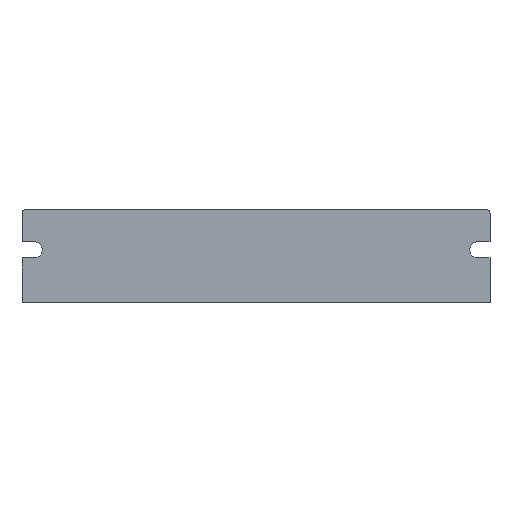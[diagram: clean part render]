
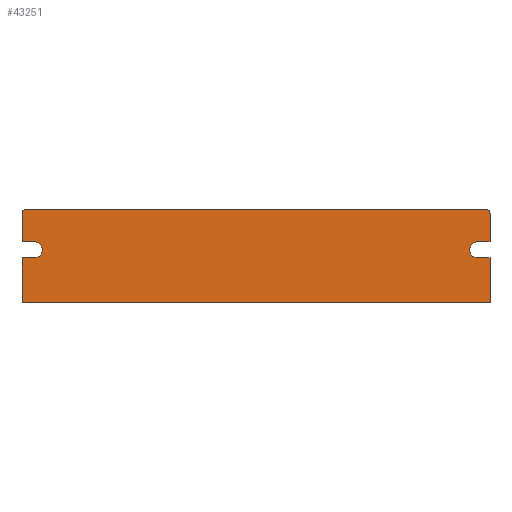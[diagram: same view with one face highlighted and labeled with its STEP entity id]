
A CAD part, front view. The second image highlights one B-rep face of the part: STEP entity #43251.
In plain terms, the highlighted planar face has unit normal (0, -1, 0).
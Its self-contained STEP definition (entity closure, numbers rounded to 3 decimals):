
#102 = LINE ( 'NONE', #50583, #28123 ) ;
#2723 = CARTESIAN_POINT ( 'NONE',  ( 0., 0., 26.5 ) ) ;
#2993 = DIRECTION ( 'NONE',  ( 0., 1., 0. ) ) ;
#3218 = LINE ( 'NONE', #52985, #46111 ) ;
#3506 = EDGE_CURVE ( 'NONE', #19053, #19018, #8926, .T. ) ;
#3682 = VECTOR ( 'NONE', #11109, 1000. ) ;
#4391 = ORIENTED_EDGE ( 'NONE', *, *, #33938, .T. ) ;
#4634 = ORIENTED_EDGE ( 'NONE', *, *, #62799, .F. ) ;
#4702 = VERTEX_POINT ( 'NONE', #41586 ) ;
#5568 = CARTESIAN_POINT ( 'NONE',  ( 133., 0., 25.5 ) ) ;
#5802 = ORIENTED_EDGE ( 'NONE', *, *, #31378, .T. ) ;
#6171 = VECTOR ( 'NONE', #38966, 1000. ) ;
#6438 = DIRECTION ( 'NONE',  ( 0., 0., 1. ) ) ;
#6616 = CIRCLE ( 'NONE', #48885, 2.3 ) ;
#8310 = VERTEX_POINT ( 'NONE', #65780 ) ;
#8371 = DIRECTION ( 'NONE',  ( -1., 0., 0. ) ) ;
#8780 = ORIENTED_EDGE ( 'NONE', *, *, #68417, .T. ) ;
#8858 = EDGE_CURVE ( 'NONE', #68368, #64689, #31818, .T. ) ;
#8926 = CIRCLE ( 'NONE', #49354, 1. ) ;
#9534 = LINE ( 'NONE', #56730, #52382 ) ;
#10156 = EDGE_CURVE ( 'NONE', #48334, #68368, #19342, .T. ) ;
#10470 = CARTESIAN_POINT ( 'NONE',  ( 134., 0., 25.5 ) ) ;
#10574 = VERTEX_POINT ( 'NONE', #38362 ) ;
#11084 = EDGE_CURVE ( 'NONE', #8310, #11341, #43748, .T. ) ;
#11109 = DIRECTION ( 'NONE',  ( 1., 0., 0. ) ) ;
#11171 = DIRECTION ( 'NONE',  ( 0., 0., 1. ) ) ;
#11341 = VERTEX_POINT ( 'NONE', #67203 ) ;
#11363 = ORIENTED_EDGE ( 'NONE', *, *, #3506, .F. ) ;
#11420 = EDGE_CURVE ( 'NONE', #4702, #10574, #9534, .T. ) ;
#12899 = ORIENTED_EDGE ( 'NONE', *, *, #25333, .T. ) ;
#14289 = DIRECTION ( 'NONE',  ( 0., 1., 0. ) ) ;
#15050 = VECTOR ( 'NONE', #68933, 1000. ) ;
#15785 = CARTESIAN_POINT ( 'NONE',  ( 1., 0., 26.5 ) ) ;
#16125 = CARTESIAN_POINT ( 'NONE',  ( 130.5, 0., 15. ) ) ;
#16429 = CARTESIAN_POINT ( 'NONE',  ( 130.5, 0., 15. ) ) ;
#16587 = VECTOR ( 'NONE', #8371, 1000. ) ;
#16777 = LINE ( 'NONE', #18649, #15050 ) ;
#17415 = ORIENTED_EDGE ( 'NONE', *, *, #56143, .T. ) ;
#18649 = CARTESIAN_POINT ( 'NONE',  ( 130.5, 0., 12.7 ) ) ;
#18988 = CIRCLE ( 'NONE', #48190, 1. ) ;
#19018 = VERTEX_POINT ( 'NONE', #10470 ) ;
#19053 = VERTEX_POINT ( 'NONE', #50084 ) ;
#19342 = CIRCLE ( 'NONE', #39434, 2.3 ) ;
#19426 = CARTESIAN_POINT ( 'NONE',  ( 128.2, 0., 15. ) ) ;
#19599 = PLANE ( 'NONE',  #32081 ) ;
#19849 = VERTEX_POINT ( 'NONE', #63151 ) ;
#20981 = LINE ( 'NONE', #55478, #6171 ) ;
#21744 = DIRECTION ( 'NONE',  ( -1., 0., 0. ) ) ;
#22057 = DIRECTION ( 'NONE',  ( -1., 0., 0. ) ) ;
#22480 = DIRECTION ( 'NONE',  ( 0., 1., 0. ) ) ;
#24050 = LINE ( 'NONE', #38654, #52059 ) ;
#25333 = EDGE_CURVE ( 'NONE', #64689, #43132, #24050, .T. ) ;
#26597 = VECTOR ( 'NONE', #42937, 1000. ) ;
#26638 = FACE_OUTER_BOUND ( 'NONE', #45146, .T. ) ;
#27194 = ORIENTED_EDGE ( 'NONE', *, *, #8858, .T. ) ;
#28123 = VECTOR ( 'NONE', #56160, 1000. ) ;
#28810 = VECTOR ( 'NONE', #31625, 1000. ) ;
#30005 = VERTEX_POINT ( 'NONE', #15785 ) ;
#30040 = ORIENTED_EDGE ( 'NONE', *, *, #11084, .T. ) ;
#30362 = EDGE_CURVE ( 'NONE', #10574, #48334, #16777, .T. ) ;
#30753 = DIRECTION ( 'NONE',  ( -1., 0., 0. ) ) ;
#31378 = EDGE_CURVE ( 'NONE', #62605, #33360, #20981, .T. ) ;
#31625 = DIRECTION ( 'NONE',  ( -1., 0., 0. ) ) ;
#31818 = CIRCLE ( 'NONE', #65046, 2.3 ) ;
#32081 = AXIS2_PLACEMENT_3D ( 'NONE', #69876, #2993, #42144 ) ;
#32957 = DIRECTION ( 'NONE',  ( 1., 0., 0. ) ) ;
#33221 = LINE ( 'NONE', #2723, #16587 ) ;
#33360 = VERTEX_POINT ( 'NONE', #51848 ) ;
#33938 = EDGE_CURVE ( 'NONE', #19053, #30005, #33221, .T. ) ;
#34057 = CARTESIAN_POINT ( 'NONE',  ( 130.5, 0., 17.3 ) ) ;
#34964 = CARTESIAN_POINT ( 'NONE',  ( 0., 0., 25.5 ) ) ;
#36088 = EDGE_CURVE ( 'NONE', #62605, #30005, #18988, .T. ) ;
#37333 = CARTESIAN_POINT ( 'NONE',  ( 0., 0., 26.5 ) ) ;
#38356 = CARTESIAN_POINT ( 'NONE',  ( 130.5, 0., 12.7 ) ) ;
#38362 = CARTESIAN_POINT ( 'NONE',  ( 134., 0., 12.7 ) ) ;
#38654 = CARTESIAN_POINT ( 'NONE',  ( 130.5, 0., 17.3 ) ) ;
#38966 = DIRECTION ( 'NONE',  ( 0., 0., -1. ) ) ;
#39126 = EDGE_CURVE ( 'NONE', #33360, #57225, #63111, .T. ) ;
#39434 = AXIS2_PLACEMENT_3D ( 'NONE', #16429, #55517, #22057 ) ;
#41224 = ORIENTED_EDGE ( 'NONE', *, *, #70325, .T. ) ;
#41586 = CARTESIAN_POINT ( 'NONE',  ( 134., 0., 0. ) ) ;
#42144 = DIRECTION ( 'NONE',  ( 0., 0., 1. ) ) ;
#42937 = DIRECTION ( 'NONE',  ( 0., 0., -1. ) ) ;
#43132 = VERTEX_POINT ( 'NONE', #58008 ) ;
#43251 = ADVANCED_FACE ( 'NONE', ( #26638 ), #19599, .F. ) ;
#43748 = LINE ( 'NONE', #59461, #28810 ) ;
#44143 = CARTESIAN_POINT ( 'NONE',  ( 3.5, 0., 17.3 ) ) ;
#44701 = DIRECTION ( 'NONE',  ( 0., 1., 0. ) ) ;
#45146 = EDGE_LOOP ( 'NONE', ( #11363, #4391, #49366, #5802, #56291, #8780, #30040, #41224, #4634, #48999, #56032, #58167, #27194, #12899, #17415 ) ) ;
#46111 = VECTOR ( 'NONE', #30753, 1000. ) ;
#47825 = CARTESIAN_POINT ( 'NONE',  ( 3.5, 0., 15. ) ) ;
#48190 = AXIS2_PLACEMENT_3D ( 'NONE', #55933, #22480, #61574 ) ;
#48334 = VERTEX_POINT ( 'NONE', #38356 ) ;
#48885 = AXIS2_PLACEMENT_3D ( 'NONE', #47825, #14289, #53400 ) ;
#48999 = ORIENTED_EDGE ( 'NONE', *, *, #11420, .T. ) ;
#49354 = AXIS2_PLACEMENT_3D ( 'NONE', #5568, #44701, #11171 ) ;
#49366 = ORIENTED_EDGE ( 'NONE', *, *, #36088, .F. ) ;
#50084 = CARTESIAN_POINT ( 'NONE',  ( 133., 0., 26.5 ) ) ;
#50583 = CARTESIAN_POINT ( 'NONE',  ( 134., 0., 26.5 ) ) ;
#51848 = CARTESIAN_POINT ( 'NONE',  ( 0., 0., 17.3 ) ) ;
#52059 = VECTOR ( 'NONE', #32957, 1000. ) ;
#52382 = VECTOR ( 'NONE', #6438, 1000. ) ;
#52985 = CARTESIAN_POINT ( 'NONE',  ( 0., 0., 0. ) ) ;
#53400 = DIRECTION ( 'NONE',  ( -1., 0., 0. ) ) ;
#55216 = DIRECTION ( 'NONE',  ( 0., 1., 0. ) ) ;
#55478 = CARTESIAN_POINT ( 'NONE',  ( 0., 0., 26.5 ) ) ;
#55517 = DIRECTION ( 'NONE',  ( 0., 1., 0. ) ) ;
#55933 = CARTESIAN_POINT ( 'NONE',  ( 1., 0., 25.5 ) ) ;
#56032 = ORIENTED_EDGE ( 'NONE', *, *, #30362, .T. ) ;
#56143 = EDGE_CURVE ( 'NONE', #43132, #19018, #102, .T. ) ;
#56160 = DIRECTION ( 'NONE',  ( 0., 0., 1. ) ) ;
#56291 = ORIENTED_EDGE ( 'NONE', *, *, #39126, .T. ) ;
#56296 = LINE ( 'NONE', #37333, #26597 ) ;
#56730 = CARTESIAN_POINT ( 'NONE',  ( 134., 0., 26.5 ) ) ;
#57225 = VERTEX_POINT ( 'NONE', #44143 ) ;
#58008 = CARTESIAN_POINT ( 'NONE',  ( 134., 0., 17.3 ) ) ;
#58167 = ORIENTED_EDGE ( 'NONE', *, *, #10156, .T. ) ;
#59461 = CARTESIAN_POINT ( 'NONE',  ( 3.5, 0., 12.7 ) ) ;
#61574 = DIRECTION ( 'NONE',  ( 0., 0., -1. ) ) ;
#62605 = VERTEX_POINT ( 'NONE', #34964 ) ;
#62799 = EDGE_CURVE ( 'NONE', #4702, #19849, #3218, .T. ) ;
#63111 = LINE ( 'NONE', #66766, #3682 ) ;
#63151 = CARTESIAN_POINT ( 'NONE',  ( 0., 0., 0. ) ) ;
#64689 = VERTEX_POINT ( 'NONE', #34057 ) ;
#65046 = AXIS2_PLACEMENT_3D ( 'NONE', #16125, #55216, #21744 ) ;
#65780 = CARTESIAN_POINT ( 'NONE',  ( 3.5, 0., 12.7 ) ) ;
#66766 = CARTESIAN_POINT ( 'NONE',  ( 0., 0., 17.3 ) ) ;
#67203 = CARTESIAN_POINT ( 'NONE',  ( 0., 0., 12.7 ) ) ;
#68368 = VERTEX_POINT ( 'NONE', #19426 ) ;
#68417 = EDGE_CURVE ( 'NONE', #57225, #8310, #6616, .T. ) ;
#68933 = DIRECTION ( 'NONE',  ( -1., 0., 0. ) ) ;
#69876 = CARTESIAN_POINT ( 'NONE',  ( 0., 0., 26.5 ) ) ;
#70325 = EDGE_CURVE ( 'NONE', #11341, #19849, #56296, .T. ) ;
